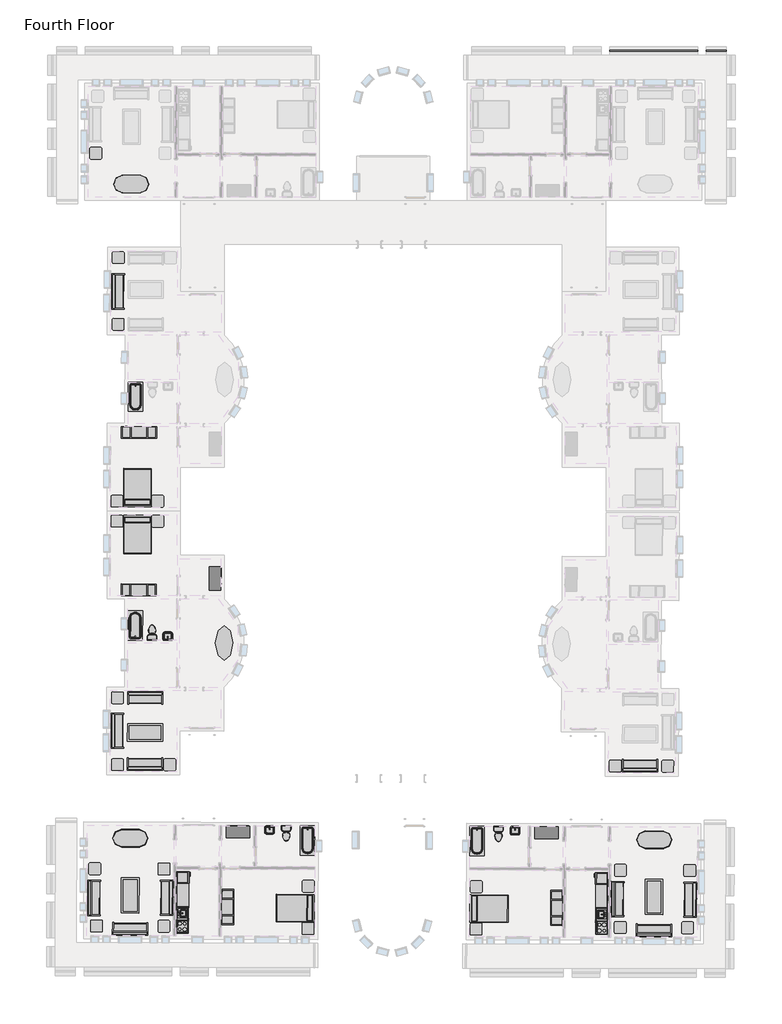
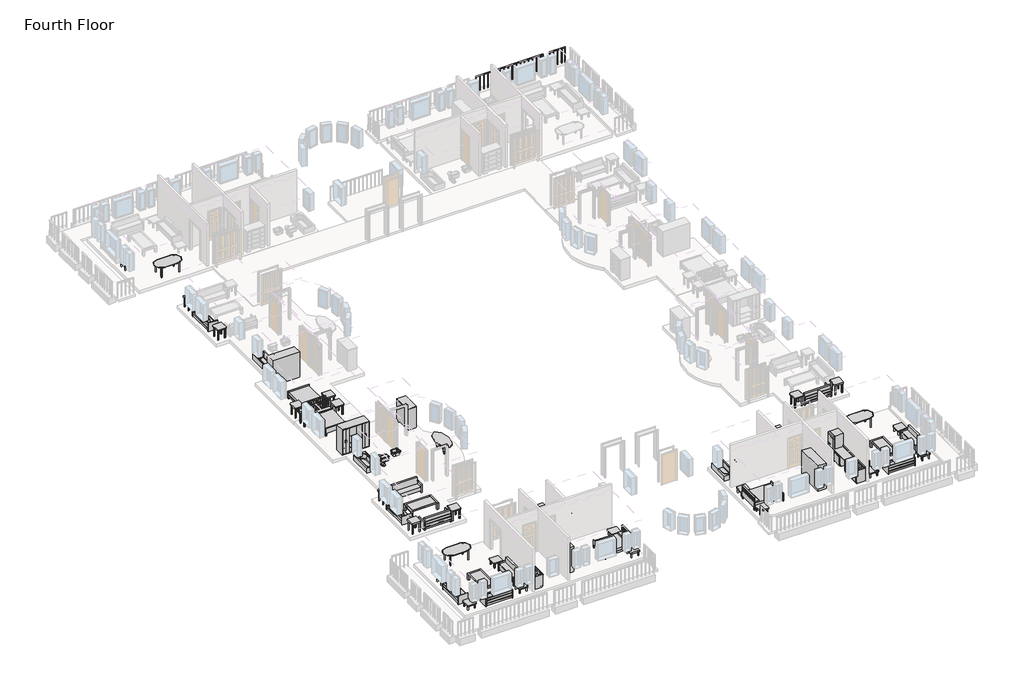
# One storey, part 7 of 8: 55 furniture elements, 12 flow terminals, 8 proxies, 2 railings.
"""IFC4 building model written with IfcOpenShell, lengths in millimetres."""

from ifc_helpers import new_model, si_unit, frame, origin, place, context, project, spatial, polyline, outline, extrude, transform, mapped, element, save
from components import m_cook_top_4_unit2_0615_x_500mm_249f3515, m_cook_top_4_unit2_0615_x_500mm_c91639ce, m_dishwasher_610_x_610_x_875mm_54ecfc4c, m_dishwasher_610_x_610_x_875mm_75336c20, m_kitchenette_medium_1372mm_e05c6bec, m_kitchenette_medium_1372mm_39f1532f, m_refrigerator_600_x_660mm_a466bf94, m_refrigerator_600_x_660mm_0a899b9c, m_sink_kitchen_island_450_x_450mm_f969cf2d, m_sink_kitchen_island_450_x_450mm_f6c2c534, m_sink_vanity_square_500_x_440mm_1e229b74, m_sink_vanity_square_500_x_440mm_f3cfe680, m_toilet_domestic_3d_m_toilet_domestic_3d_5cb52bd4, m_toilet_domestic_3d_m_toilet_domestic_3d_183bbd19, m_toilet_domestic_3d_m_toilet_domestic_3d_43425dfb, m_toilet_domestic_3d_m_toilet_domestic_3d_5530cc89, m_tub_rectangular_3d_m_tub_rectangular_3d_3a981ad5, m_tub_rectangular_3d_m_tub_rectangular_3d_c2020133, m_bed_shaker_1422_x_1981mm_double_096e7f55, m_bed_shaker_1422_x_1981mm_double_097b173b, m_counter_top_w_sink_hole_600mm_depth_1fb56bb9, m_counter_top_w_sink_hole_600mm_depth_7e9aa94d, m_dresser_1220_x_1525_x_0610mm_18e1f140, m_dresser_1220_x_1525_x_0610mm_4e5de046, m_entertainment_center_1830_x_1830_x_0610mm_f77a9b93, m_entertainment_center_1830_x_1830_x_0610mm_4f6058a0, m_sofa_1830mm_58d08fc1, m_sofa_1830mm_3da2e71b, m_sofa1_1830mm_f9e8a66b, m_sofa1_1830mm_493d6964, m_table_coffee_0915_x_1830_x_0457mm_134cd960, m_table_coffee_0915_x_1830_x_0457mm_595c1ebd, m_table_dining_oval_0915_x_1830mm_a7cfbe21, m_table_dining_oval_0915_x_1830mm_ad8305c5, m_table_ellipse_1800_x_900mm_f7269293, m_table_end_cb6ea12e, m_table_end_aa2764bc, m_table_end_0610_x_0160mm_e0e5b28f, m_table_end_0610_x_0160mm_ccef8dc9

model = new_model("IFC4")

# Units and contexts
model_context = context("Model", 3, world=origin())
ifc_project = project(units=[si_unit("LENGTHUNIT", "METRE", prefix="MILLI")], contexts=[model_context])

# Site, building, storey
site = spatial("IfcSite", under=ifc_project)
building = spatial("IfcBuilding", under=site)
storey = spatial("IfcBuildingStorey", under=building, Name="Fourth Floor", Elevation=9144.0)

# Proxies
placement = place(None, origin())
m_cook_top_4_unit2_0615_x_500mm_shape = m_cook_top_4_unit2_0615_x_500mm_249f3515(model_context)
element("IfcBuildingElementProxy", 1, Name="M_Cook Top-4 Unit2 : 0615 x 500mm", ObjectType="M_Cook Top-4 Unit2 : 0615 x 500mm", at=placement, inside=storey, context=model_context, shape_type="MappedRepresentation", body=[
    mapped(m_cook_top_4_unit2_0615_x_500mm_shape, transform((-29921.672142, -41252.4695151, 9144.0), x_axis=(0.0028948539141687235, 0.9999958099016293, 0.0), y_axis=(-0.9999958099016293, 0.0028948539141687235, 0.0), z_axis=(0.0, 0.0, 1.0))),
])
m_cook_top_4_unit2_0615_x_500mm_2_shape = m_cook_top_4_unit2_0615_x_500mm_c91639ce(model_context)
element("IfcBuildingElementProxy", 2, Name="M_Cook Top-4 Unit2 : 0615 x 500mm", ObjectType="M_Cook Top-4 Unit2 : 0615 x 500mm", at=placement, inside=storey, context=model_context, shape_type="MappedRepresentation", body=[
    mapped(m_cook_top_4_unit2_0615_x_500mm_2_shape, transform((-8117.5635037, -41315.5894888, 9144.0), x_axis=(0.0028948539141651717, 0.9999958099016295, 0.0), y_axis=(-0.9999958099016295, 0.0028948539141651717, 0.0), z_axis=(0.0, 0.0, 1.0))),
])
m_dishwasher_610_x_610_x_875mm_shape = m_dishwasher_610_x_610_x_875mm_54ecfc4c(model_context)
element("IfcBuildingElementProxy", 3, Name="M_Dishwasher : 610 x 610 x 875mm", ObjectType="M_Dishwasher : 610 x 610 x 875mm", at=placement, inside=storey, context=model_context, shape_type="MappedRepresentation", body=[
    mapped(m_dishwasher_610_x_610_x_875mm_shape, transform((-29650.5063255, -39692.7654337, 9144.0), x_axis=(0.0028948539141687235, 0.9999958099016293, 0.0), y_axis=(-0.9999958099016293, 0.0028948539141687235, 0.0), z_axis=(0.0, 0.0, 1.0))),
])
m_dishwasher_610_x_610_x_875mm_2_shape = m_dishwasher_610_x_610_x_875mm_75336c20(model_context)
element("IfcBuildingElementProxy", 4, Name="M_Dishwasher : 610 x 610 x 875mm", ObjectType="M_Dishwasher : 610 x 610 x 875mm", at=placement, inside=storey, context=model_context, shape_type="MappedRepresentation", body=[
    mapped(m_dishwasher_610_x_610_x_875mm_2_shape, transform((-8379.6945822, -39754.3415843, 9144.0), x_axis=(0.0028948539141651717, 0.9999958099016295, 0.0), y_axis=(-0.9999958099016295, 0.0028948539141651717, 0.0), z_axis=(0.0, 0.0, 1.0))),
])
m_kitchenette_medium_1372mm_shape = m_kitchenette_medium_1372mm_e05c6bec(model_context)
element("IfcBuildingElementProxy", 5, Name="M_Kitchenette - Medium : 1372mm", ObjectType="M_Kitchenette - Medium : 1372mm", at=placement, inside=storey, context=model_context, shape_type="MappedRepresentation", body=[
    mapped(m_kitchenette_medium_1372mm_shape, transform((-30225.732172, -40927.3256482, 9144.0), x_axis=(0.0028948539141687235, 0.9999958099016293, 0.0), y_axis=(-0.9999958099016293, 0.0028948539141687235, 0.0), z_axis=(0.0, 0.0, 1.0))),
])
m_kitchenette_medium_1372mm_2_shape = m_kitchenette_medium_1372mm_39f1532f(model_context)
element("IfcBuildingElementProxy", 6, Name="M_Kitchenette - Medium : 1372mm", ObjectType="M_Kitchenette - Medium : 1372mm", at=placement, inside=storey, context=model_context, shape_type="MappedRepresentation", body=[
    mapped(m_kitchenette_medium_1372mm_2_shape, transform((-7811.6260897, -40992.2114828, 9144.0), x_axis=(0.0028948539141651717, 0.9999958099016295, 0.0), y_axis=(-0.9999958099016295, 0.0028948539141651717, 0.0), z_axis=(0.0, 0.0, 1.0))),
])
m_refrigerator_600_x_660mm_shape = m_refrigerator_600_x_660mm_a466bf94(model_context)
element("IfcBuildingElementProxy", 7, Name="M_Refrigerator : 600 x 660mm", ObjectType="M_Refrigerator : 600 x 660mm", at=placement, inside=storey, context=model_context, shape_type="MappedRepresentation", body=[
    mapped(m_refrigerator_600_x_660mm_shape, transform((-29922.9251807, -38650.6538432, 9144.0), x_axis=(0.0028948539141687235, 0.9999958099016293, 0.0), y_axis=(-0.9999958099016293, 0.0028948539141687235, 0.0), z_axis=(0.0, 0.0, 1.0))),
])
m_refrigerator_600_x_660mm_2_shape = m_refrigerator_600_x_660mm_0a899b9c(model_context)
element("IfcBuildingElementProxy", 8, Name="M_Refrigerator : 600 x 660mm", ObjectType="M_Refrigerator : 600 x 660mm", at=placement, inside=storey, context=model_context, shape_type="MappedRepresentation", body=[
    mapped(m_refrigerator_600_x_660mm_2_shape, transform((-8101.2467965, -38713.824679, 9144.0), x_axis=(0.0028948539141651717, 0.9999958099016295, 0.0), y_axis=(-0.9999958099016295, 0.0028948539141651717, 0.0), z_axis=(0.0, 0.0, 1.0))),
])

# Flow terminals
m_sink_kitchen_island_450_x_450mm_shape = m_sink_kitchen_island_450_x_450mm_f969cf2d(model_context)
element("IfcFlowTerminal", 9, ObjectType="M_Sink Kitchen-Island : 450 x 450mm", at=placement, inside=storey, context=model_context, shape_type="MappedRepresentation", body=[
    mapped(m_sink_kitchen_island_450_x_450mm_shape, transform((-29917.3862989, -40582.1683539, 9144.0), x_axis=(0.0028948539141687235, 0.9999958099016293, 0.0), y_axis=(-0.9999958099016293, 0.0028948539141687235, 0.0), z_axis=(0.0, 0.0, 1.0))),
])
m_sink_kitchen_island_450_x_450mm_2_shape = m_sink_kitchen_island_450_x_450mm_f6c2c534(model_context)
element("IfcFlowTerminal", 10, ObjectType="M_Sink Kitchen-Island : 450 x 450mm", at=placement, inside=storey, context=model_context, shape_type="MappedRepresentation", body=[
    mapped(m_sink_kitchen_island_450_x_450mm_2_shape, transform((-8117.9684433, -40645.2747484, 9144.0), x_axis=(0.0028948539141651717, 0.9999958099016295, 0.0), y_axis=(-0.9999958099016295, 0.0028948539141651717, 0.0), z_axis=(0.0, 0.0, 1.0))),
])
m_sink_vanity_square_500_x_440mm_shape = m_sink_vanity_square_500_x_440mm_1e229b74(model_context)
element("IfcFlowTerminal", 11, ObjectType="M_Sink Vanity-Square : 500 x 440mm", at=placement, inside=storey, context=model_context, shape_type="MappedRepresentation", body=[
    mapped(m_sink_vanity_square_500_x_440mm_shape, transform((-25398.4470959, -36193.3769715, 9144.0), x_axis=(0.9999958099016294, -0.0028948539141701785, 0.0), y_axis=(0.0028948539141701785, 0.9999958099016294, 0.0), z_axis=(0.0, 0.0, 1.0))),
])
m_sink_vanity_square_500_x_440mm_2_shape = m_sink_vanity_square_500_x_440mm_f3cfe680(model_context)
element("IfcFlowTerminal", 12, ObjectType="M_Sink Vanity-Square : 500 x 440mm", at=placement, inside=storey, context=model_context, shape_type="MappedRepresentation", body=[
    mapped(m_sink_vanity_square_500_x_440mm_2_shape, transform((-12611.4221939, -36230.3936957, 9144.0), x_axis=(-0.9999958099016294, 0.002894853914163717, 0.0), y_axis=(-0.002894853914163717, -0.9999958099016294, 0.0), z_axis=(0.0, 0.0, 1.0))),
])
element("IfcFlowTerminal", 13, ObjectType="M_Sink Vanity-Square : 500 x 440mm", at=placement, inside=storey, context=model_context, shape_type="MappedRepresentation", body=[
    mapped(m_sink_vanity_square_500_x_440mm_2_shape, transform((-30696.2592425, -26201.6024913, 9144.0), x_axis=(0.9999989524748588, -0.001447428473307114, 0.0), y_axis=(0.0014474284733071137, 0.9999989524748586, 0.0), z_axis=(0.0, 0.0, 0.9999999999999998))),
])
m_toilet_domestic_3d_m_toilet_domestic_3d_shape = m_toilet_domestic_3d_m_toilet_domestic_3d_5cb52bd4(model_context)
m_toilet_domestic_3d_m_toilet_domestic_3d_2_shape = m_toilet_domestic_3d_m_toilet_domestic_3d_183bbd19(model_context)
element("IfcFlowTerminal", 14, ObjectType="M_Toilet-Domestic-3D : M_Toilet-Domestic-3D", at=placement, inside=storey, context=model_context, shape_type="MappedRepresentation", body=[
    mapped(m_toilet_domestic_3d_m_toilet_domestic_3d_shape, transform((-24522.1713775, -36508.8406097, 9144.0), x_axis=(0.9999958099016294, -0.00289485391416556, 0.0), y_axis=(0.00289485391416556, 0.9999958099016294, 0.0), z_axis=(0.0, 0.0, 1.0))),
    mapped(m_toilet_domestic_3d_m_toilet_domestic_3d_2_shape, transform((-24522.1713775, -36508.8406097, 9144.0), x_axis=(0.9999958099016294, -0.00289485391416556, 0.0), y_axis=(0.00289485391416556, 0.9999958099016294, 0.0), z_axis=(0.0, 0.0, 1.0))),
])
m_toilet_domestic_3d_m_toilet_domestic_3d_3_shape = m_toilet_domestic_3d_m_toilet_domestic_3d_43425dfb(model_context)
m_toilet_domestic_3d_m_toilet_domestic_3d_4_shape = m_toilet_domestic_3d_m_toilet_domestic_3d_5530cc89(model_context)
element("IfcFlowTerminal", 15, ObjectType="M_Toilet-Domestic-3D : M_Toilet-Domestic-3D", at=placement, inside=storey, context=model_context, shape_type="MappedRepresentation", body=[
    mapped(m_toilet_domestic_3d_m_toilet_domestic_3d_3_shape, transform((-13489.5096603, -36540.7786875, 9144.0), x_axis=(-0.9999958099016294, 0.002894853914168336, 0.0), y_axis=(-0.002894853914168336, -0.9999958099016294, 0.0), z_axis=(0.0, 0.0, 1.0))),
    mapped(m_toilet_domestic_3d_m_toilet_domestic_3d_4_shape, transform((-13489.5096603, -36540.7786875, 9144.0), x_axis=(-0.9999958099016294, 0.002894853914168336, 0.0), y_axis=(-0.002894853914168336, -0.9999958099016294, 0.0), z_axis=(0.0, 0.0, 1.0))),
])
element("IfcFlowTerminal", 16, ObjectType="M_Toilet-Domestic-3D1 : M_Toilet-Domestic-3D", at=placement, inside=storey, context=model_context, shape_type="MappedRepresentation", body=[
    mapped(m_toilet_domestic_3d_m_toilet_domestic_3d_3_shape, transform((-31493.0231805, -25877.7982671, 9144.0), x_axis=(0.9999989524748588, -0.001447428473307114, 0.0), y_axis=(0.0014474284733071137, 0.9999989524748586, 0.0), z_axis=(0.0, 0.0, 0.9999999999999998))),
    mapped(m_toilet_domestic_3d_m_toilet_domestic_3d_4_shape, transform((-31493.0231805, -25877.7982671, 9144.0), x_axis=(0.9999989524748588, -0.001447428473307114, 0.0), y_axis=(0.0014474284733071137, 0.9999989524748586, 0.0), z_axis=(0.0, 0.0, 0.9999999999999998))),
])
m_tub_rectangular_3d_m_tub_rectangular_3d_shape = m_tub_rectangular_3d_m_tub_rectangular_3d_3a981ad5(model_context)
element("IfcFlowTerminal", 17, ObjectType="M_Tub-Rectangular-3D : M_Tub-Rectangular-3D", at=placement, inside=storey, context=model_context, shape_type="MappedRepresentation", body=[
    mapped(m_tub_rectangular_3d_m_tub_rectangular_3d_shape, transform((-22854.3573612, -37129.57823, 9144.0), x_axis=(-0.0028948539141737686, -0.9999958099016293, 0.0), y_axis=(0.9999958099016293, -0.0028948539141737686, 0.0), z_axis=(0.0, 0.0, 1.0))),
])
element("IfcFlowTerminal", 18, ObjectType="M_Tub-Rectangular-3D : M_Tub-Rectangular-3D", at=placement, inside=storey, context=model_context, shape_type="MappedRepresentation", body=[
    mapped(m_tub_rectangular_3d_m_tub_rectangular_3d_shape, transform((-32926.5841692, -25259.8157014, 9144.0), x_axis=(0.0014474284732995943, 0.9999989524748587, 0.0), y_axis=(-0.9999989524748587, 0.0014474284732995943, 0.0), z_axis=(0.0, 0.0, 1.0))),
])
m_tub_rectangular_3d_m_tub_rectangular_3d_2_shape = m_tub_rectangular_3d_m_tub_rectangular_3d_c2020133(model_context)
element("IfcFlowTerminal", 19, ObjectType="M_Tub-Rectangular-3D : M_Tub-Rectangular-3D", at=placement, inside=storey, context=model_context, shape_type="MappedRepresentation", body=[
    mapped(m_tub_rectangular_3d_m_tub_rectangular_3d_2_shape, transform((-32910.3874532, -14069.8333606, 9144.0), x_axis=(-0.0014474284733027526, -0.9999989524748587, 0.0), y_axis=(0.9999989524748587, -0.0014474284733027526, 0.0), z_axis=(0.0, 0.0, 1.0))),
])
element("IfcFlowTerminal", 20, ObjectType="M_Tub-Rectangular-3D : M_Tub-Rectangular-3D", at=placement, inside=storey, context=model_context, shape_type="MappedRepresentation", body=[
    mapped(m_tub_rectangular_3d_m_tub_rectangular_3d_2_shape, transform((-15160.8895978, -37151.8497886, 9144.0), x_axis=(-0.0028948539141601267, -0.9999958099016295, 0.0), y_axis=(0.9999958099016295, -0.0028948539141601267, 0.0), z_axis=(0.0, 0.0, 1.0))),
])

# Furniture
m_bed_shaker_1422_x_1981mm_double_shape = m_bed_shaker_1422_x_1981mm_double_096e7f55(model_context)
element("IfcFurniture", 21, ObjectType="M_Bed-Shaker : 1422 x 1981mm - Double", at=placement, inside=storey, context=model_context, shape_type="MappedRepresentation", body=[
    mapped(m_bed_shaker_1422_x_1981mm_double_shape, transform((-32265.3963493, -19430.7695861, 9144.0), x_axis=(-0.9999989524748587, 0.0014474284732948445, 0.0), y_axis=(-0.0014474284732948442, -0.9999989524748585, 0.0), z_axis=(0.0, 0.0, 0.9999999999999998))),
])
element("IfcFurniture", 22, ObjectType="M_Bed-Shaker : 1422 x 1981mm - Double", at=placement, inside=storey, context=model_context, shape_type="MappedRepresentation", body=[
    mapped(m_bed_shaker_1422_x_1981mm_double_shape, transform((-23068.6004859, -40322.2184362, 9144.0), x_axis=(-0.002894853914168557, -0.9999958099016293, 0.0), y_axis=(0.9999958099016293, -0.002894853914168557, 0.0), z_axis=(0.0, 0.0, 1.0))),
])
m_bed_shaker_1422_x_1981mm_double_2_shape = m_bed_shaker_1422_x_1981mm_double_097b173b(model_context)
element("IfcFurniture", 23, ObjectType="M_Bed-Shaker : 1422 x 1981mm - Double", at=placement, inside=storey, context=model_context, shape_type="MappedRepresentation", body=[
    mapped(m_bed_shaker_1422_x_1981mm_double_2_shape, transform((-14965.1344404, -40345.6768849, 9144.0), x_axis=(-0.0028948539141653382, -0.9999958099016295, 0.0), y_axis=(0.9999958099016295, -0.0028948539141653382, 0.0), z_axis=(0.0, 0.0, 1.0))),
])
element("IfcFurniture", 24, ObjectType="M_Bed-Shaker : 1422 x 1981mm - Double", at=placement, inside=storey, context=model_context, shape_type="MappedRepresentation", body=[
    mapped(m_bed_shaker_1422_x_1981mm_double_2_shape, transform((-32266.0766407, -19900.7690938, 9144.0), x_axis=(-0.9999989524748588, 0.0014474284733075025, 0.0), y_axis=(-0.0014474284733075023, -0.9999989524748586, 0.0), z_axis=(0.0, 0.0, 0.9999999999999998))),
])
m_counter_top_w_sink_hole_600mm_depth_shape = m_counter_top_w_sink_hole_600mm_depth_1fb56bb9(model_context)
element("IfcFurniture", 25, ObjectType="M_Counter Top w Sink Hole : 600mm Depth", at=placement, inside=storey, context=model_context, shape_type="MappedRepresentation", body=[
    mapped(m_counter_top_w_sink_hole_600mm_depth_shape, transform((-30224.1886359, -40394.1278824, 9144.0), x_axis=(0.0028948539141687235, 0.9999958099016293, 0.0), y_axis=(-0.9999958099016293, 0.0028948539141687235, 0.0), z_axis=(0.0, 0.0, 1.0))),
])
m_counter_top_w_sink_hole_600mm_depth_2_shape = m_counter_top_w_sink_hole_600mm_depth_7e9aa94d(model_context)
element("IfcFurniture", 26, ObjectType="M_Counter Top w Sink Hole : 600mm Depth", at=placement, inside=storey, context=model_context, shape_type="MappedRepresentation", body=[
    mapped(m_counter_top_w_sink_hole_600mm_depth_2_shape, transform((-7810.0825536, -40459.013717, 9144.0), x_axis=(0.0028948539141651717, 0.9999958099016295, 0.0), y_axis=(-0.9999958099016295, 0.0028948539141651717, 0.0), z_axis=(0.0, 0.0, 1.0))),
])
m_dresser_1220_x_1525_x_0610mm_shape = m_dresser_1220_x_1525_x_0610mm_18e1f140(model_context)
element("IfcFurniture", 27, ObjectType="M_Dresser : 1220 x 1525 x 0610mm", at=placement, inside=storey, context=model_context, shape_type="MappedRepresentation", body=[
    mapped(m_dresser_1220_x_1525_x_0610mm_shape, transform((-27295.820683, -36698.2790207, 9144.0), x_axis=(-0.9999958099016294, 0.0028948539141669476, 0.0), y_axis=(-0.0028948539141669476, -0.9999958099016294, 0.0), z_axis=(0.0, 0.0, 1.0))),
])
m_dresser_1220_x_1525_x_0610mm_2_shape = m_dresser_1220_x_1525_x_0610mm_4e5de046(model_context)
element("IfcFurniture", 28, ObjectType="M_Dresser : 1220 x 1525 x 0610mm", at=placement, inside=storey, context=model_context, shape_type="MappedRepresentation", body=[
    mapped(m_dresser_1220_x_1525_x_0610mm_2_shape, transform((-10717.0036305, -36746.2724752, 9144.0), x_axis=(0.9999958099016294, -0.002894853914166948, 0.0), y_axis=(0.002894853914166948, 0.9999958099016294, 0.0), z_axis=(0.0, 0.0, 1.0))),
])
element("IfcFurniture", 29, ObjectType="M_Dresser : 1220 x 1525 x 0610mm", at=placement, inside=storey, context=model_context, shape_type="MappedRepresentation", body=[
    mapped(m_dresser_1220_x_1525_x_0610mm_2_shape, transform((-28585.490131, -23427.2934334, 9144.0), x_axis=(-0.0014474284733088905, -0.9999989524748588, 0.0), y_axis=(0.9999989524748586, -0.0014474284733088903, 0.0), z_axis=(0.0, 0.0, 0.9999999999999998))),
])
m_entertainment_center_1830_x_1830_x_0610mm_shape = m_entertainment_center_1830_x_1830_x_0610mm_f77a9b93(model_context)
element("IfcFurniture", 30, ObjectType="M_Entertainment center : 1830 x 1830 x 0610mm", at=placement, inside=storey, context=model_context, shape_type="MappedRepresentation", body=[
    mapped(m_entertainment_center_1830_x_1830_x_0610mm_shape, transform((-32173.151944, -15980.2994888, 9144.0), x_axis=(-0.9999989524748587, 0.0014474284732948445, 0.0), y_axis=(-0.0014474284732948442, -0.9999989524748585, 0.0), z_axis=(0.0, 0.0, 0.9999999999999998))),
])
element("IfcFurniture", 31, ObjectType="M_Entertainment center : 1830 x 1830 x 0610mm", at=placement, inside=storey, context=model_context, shape_type="MappedRepresentation", body=[
    mapped(m_entertainment_center_1830_x_1830_x_0610mm_shape, transform((-27155.4724705, -40237.537184, 9144.0), x_axis=(-0.0028948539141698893, -0.9999958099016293, 0.0), y_axis=(0.9999958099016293, -0.0028948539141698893, 0.0), z_axis=(0.0, 0.0, 1.0))),
])
m_entertainment_center_1830_x_1830_x_0610mm_2_shape = m_entertainment_center_1830_x_1830_x_0610mm_4f6058a0(model_context)
element("IfcFurniture", 32, ObjectType="M_Entertainment center : 1830 x 1830 x 0610mm", at=placement, inside=storey, context=model_context, shape_type="MappedRepresentation", body=[
    mapped(m_entertainment_center_1830_x_1830_x_0610mm_2_shape, transform((-10877.8406756, -40284.6587476, 9144.0), x_axis=(-0.002894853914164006, -0.9999958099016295, 0.0), y_axis=(0.9999958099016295, -0.002894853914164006, 0.0), z_axis=(0.0, 0.0, 1.0))),
])
element("IfcFurniture", 33, ObjectType="M_Entertainment center : 1830 x 1830 x 0610mm", at=placement, inside=storey, context=model_context, shape_type="MappedRepresentation", body=[
    mapped(m_entertainment_center_1830_x_1830_x_0610mm_2_shape, transform((-32183.8212288, -23351.4917673, 9144.0), x_axis=(-0.9999989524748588, 0.0014474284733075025, 0.0), y_axis=(-0.0014474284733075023, -0.9999989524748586, 0.0), z_axis=(0.0, 0.0, 0.9999999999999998))),
])
m_sofa_1830mm_shape = m_sofa_1830mm_58d08fc1(model_context)
element("IfcFurniture", 34, ObjectType="M_Sofa : 1830mm", at=placement, inside=storey, context=model_context, shape_type="MappedRepresentation", body=[
    mapped(m_sofa_1830mm_shape, transform((-32562.8997947, -41230.7335351, 9144.0), x_axis=(-0.9999958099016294, 0.0028948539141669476, 0.0), y_axis=(-0.0028948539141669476, -0.9999958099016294, 0.0), z_axis=(0.0, 0.0, 1.0))),
])
element("IfcFurniture", 35, ObjectType="M_Sofa : 1830mm", at=placement, inside=storey, context=model_context, shape_type="MappedRepresentation", body=[
    mapped(m_sofa_1830mm_shape, transform((-34355.4280294, -39842.8427064, 9144.0), x_axis=(0.0028948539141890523, 0.9999958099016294, 0.0), y_axis=(-0.9999958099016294, 0.0028948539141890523, 0.0), z_axis=(0.0, 0.0, 1.0))),
])
element("IfcFurniture", 36, ObjectType="M_Sofa : 1830mm", at=placement, inside=storey, context=model_context, shape_type="MappedRepresentation", body=[
    mapped(m_sofa_1830mm_shape, transform((-30883.7111212, -39691.3716975, 9144.0), x_axis=(-0.002894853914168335, -0.9999958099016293, 0.0), y_axis=(0.9999958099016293, -0.002894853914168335, 0.0), z_axis=(0.0, 0.0, 1.0))),
])
m_sofa_1830mm_2_shape = m_sofa_1830mm_3da2e71b(model_context)
element("IfcFurniture", 37, ObjectType="M_Sofa : 1830mm", at=placement, inside=storey, context=model_context, shape_type="MappedRepresentation", body=[
    mapped(m_sofa_1830mm_2_shape, transform((-5476.2542745, -41309.1457454, 9144.0), x_axis=(0.9999958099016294, -0.002894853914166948, 0.0), y_axis=(0.002894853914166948, 0.9999958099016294, 0.0), z_axis=(0.0, 0.0, 1.0))),
])
element("IfcFurniture", 38, ObjectType="M_Sofa : 1830mm", at=placement, inside=storey, context=model_context, shape_type="MappedRepresentation", body=[
    mapped(m_sofa_1830mm_2_shape, transform((-3675.7206344, -39931.6563496, 9144.0), x_axis=(0.002894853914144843, 0.9999958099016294, 0.0), y_axis=(-0.9999958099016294, 0.002894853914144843, 0.0), z_axis=(0.0, 0.0, 1.0))),
])
element("IfcFurniture", 39, ObjectType="M_Sofa : 1830mm", at=placement, inside=storey, context=model_context, shape_type="MappedRepresentation", body=[
    mapped(m_sofa_1830mm_2_shape, transform((-7146.5023862, -39760.087737, 9144.0), x_axis=(-0.0028948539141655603, -0.9999958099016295, 0.0), y_axis=(0.9999958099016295, -0.0028948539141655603, 0.0), z_axis=(0.0, 0.0, 1.0))),
])
m_sofa1_1830mm_shape = m_sofa1_1830mm_f9e8a66b(model_context)
element("IfcFurniture", 40, ObjectType="M_Sofa1 : 1830mm", at=placement, inside=storey, context=model_context, shape_type="MappedRepresentation", body=[
    mapped(m_sofa1_1830mm_shape, transform((-33110.3167447, -8323.9054813, 9144.0), x_axis=(0.0014474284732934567, 0.9999989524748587, 0.0), y_axis=(-0.9999989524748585, 0.0014474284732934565, 0.0), z_axis=(0.0, 0.0, 0.9999999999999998))),
])
element("IfcFurniture", 41, ObjectType="M_Sofa1 : 1830mm", at=placement, inside=storey, context=model_context, shape_type="MappedRepresentation", body=[
    mapped(m_sofa1_1830mm_shape, transform((-6062.461585, -32735.9936216, 9144.0), x_axis=(-0.9999905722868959, 0.00434227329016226, 0.0), y_axis=(-0.0043422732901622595, -0.9999905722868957, 0.0), z_axis=(0.0, 0.0, 0.9999999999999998))),
])
m_sofa1_1830mm_2_shape = m_sofa1_1830mm_493d6964(model_context)
element("IfcFurniture", 42, ObjectType="M_Sofa1 : 1830mm", at=placement, inside=storey, context=model_context, shape_type="MappedRepresentation", body=[
    mapped(m_sofa1_1830mm_2_shape, transform((-33143.1462448, -31005.1407385, 9144.0), x_axis=(-0.0014474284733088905, -0.9999989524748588, 0.0), y_axis=(0.9999989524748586, -0.0014474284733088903, 0.0), z_axis=(0.0, 0.0, 0.9999999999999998))),
])
element("IfcFurniture", 43, ObjectType="M_Sofa1 : 1830mm", at=placement, inside=storey, context=model_context, shape_type="MappedRepresentation", body=[
    mapped(m_sofa1_1830mm_2_shape, transform((-31781.7851362, -29524.3842504, 9144.0), x_axis=(-0.9999989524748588, 0.0014474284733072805, 0.0), y_axis=(-0.0014474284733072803, -0.9999989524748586, 0.0), z_axis=(0.0, 0.0, 0.9999999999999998))),
])
element("IfcFurniture", 44, ObjectType="M_Sofa1 : 1830mm", at=placement, inside=storey, context=model_context, shape_type="MappedRepresentation", body=[
    mapped(m_sofa1_1830mm_2_shape, transform((-31927.0664712, -32661.1190552, 9144.0), x_axis=(0.9999989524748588, -0.001447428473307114, 0.0), y_axis=(0.0014474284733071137, 0.9999989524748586, 0.0), z_axis=(0.0, 0.0, 0.9999999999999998))),
])
m_table_coffee_0915_x_1830_x_0457mm_shape = m_table_coffee_0915_x_1830_x_0457mm_134cd960(model_context)
element("IfcFurniture", 45, ObjectType="M_Table-Coffee : 0915 x 1830 x 0457mm", at=placement, inside=storey, context=model_context, shape_type="MappedRepresentation", body=[
    mapped(m_table_coffee_0915_x_1830_x_0457mm_shape, transform((-32723.8138427, -39618.1492872, 9144.0), x_axis=(-0.0028948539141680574, -0.9999958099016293, 0.0), y_axis=(0.9999958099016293, -0.0028948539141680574, 0.0), z_axis=(0.0, 0.0, 1.0))),
])
m_table_coffee_0915_x_1830_x_0457mm_2_shape = m_table_coffee_0915_x_1830_x_0457mm_595c1ebd(model_context)
element("IfcFurniture", 46, ObjectType="M_Table-Coffee : 0915 x 1830 x 0457mm", at=placement, inside=storey, context=model_context, shape_type="MappedRepresentation", body=[
    mapped(m_table_coffee_0915_x_1830_x_0457mm_2_shape, transform((-5306.0065709, -39697.5201665, 9144.0), x_axis=(-0.002894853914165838, -0.9999958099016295, 0.0), y_axis=(0.9999958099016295, -0.002894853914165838, 0.0), z_axis=(0.0, 0.0, 1.0))),
])
element("IfcFurniture", 47, ObjectType="M_Table-Coffee : 0915 x 1830 x 0457mm", at=placement, inside=storey, context=model_context, shape_type="MappedRepresentation", body=[
    mapped(m_table_coffee_0915_x_1830_x_0457mm_2_shape, transform((-31836.4214416, -31273.3639798, 9144.0), x_axis=(-0.9999989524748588, 0.0014474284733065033, 0.0), y_axis=(-0.001447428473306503, -0.9999989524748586, 0.0), z_axis=(0.0, 0.0, 0.9999999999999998))),
])
m_table_dining_oval_0915_x_1830mm_shape = m_table_dining_oval_0915_x_1830mm_a7cfbe21(model_context)
element("IfcFurniture", 48, ObjectType="M_Table-Dining Oval : 0915 x 1830mm", at=placement, inside=storey, context=model_context, shape_type="MappedRepresentation", body=[
    mapped(m_table_dining_oval_0915_x_1830mm_shape, transform((-33022.9144028, -37024.136693, 9144.0), x_axis=(-0.9999958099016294, 0.0028948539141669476, 0.0), y_axis=(-0.0028948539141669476, -0.9999958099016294, 0.0), z_axis=(0.0, 0.0, 1.0))),
])
m_table_dining_oval_0915_x_1830mm_2_shape = m_table_dining_oval_0915_x_1830mm_ad8305c5(model_context)
element("IfcFurniture", 49, ObjectType="M_Table-Dining Oval : 0915 x 1830mm", at=placement, inside=storey, context=model_context, shape_type="MappedRepresentation", body=[
    mapped(m_table_dining_oval_0915_x_1830mm_2_shape, transform((-32972.6612925, -2305.2828007, 9144.0), x_axis=(-1.0, 0.0, 0.0), y_axis=(0.0, -1.0, 0.0), z_axis=(0.0, 0.0, 1.0))),
])
element("IfcFurniture", 50, ObjectType="M_Table-Dining Oval : 0915 x 1830mm", at=placement, inside=storey, context=model_context, shape_type="MappedRepresentation", body=[
    mapped(m_table_dining_oval_0915_x_1830mm_2_shape, transform((-4991.8925118, -37105.2827464, 9144.0), x_axis=(0.9999958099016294, -0.002894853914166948, 0.0), y_axis=(0.002894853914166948, 0.9999958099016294, 0.0), z_axis=(0.0, 0.0, 1.0))),
])
m_table_ellipse_1800_x_900mm_shape = m_table_ellipse_1800_x_900mm_f7269293(model_context)
element("IfcFurniture", 51, ObjectType="M_Table-Ellipse : 1800 x 900mm", at=placement, inside=storey, context=model_context, shape_type="MappedRepresentation", body=[
    mapped(m_table_ellipse_1800_x_900mm_shape, transform((-27746.793242, -26513.4173601, 9144.0), x_axis=(-0.0014474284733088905, -0.9999989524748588, 0.0), y_axis=(0.9999989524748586, -0.0014474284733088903, 0.0), z_axis=(0.0, 0.0, 0.9999999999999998))),
])
m_table_end_shape = m_table_end_cb6ea12e(model_context)
element("IfcFurniture", 52, ObjectType="M_Table-End : 0610 x 0160mm altered height", at=placement, inside=storey, context=model_context, shape_type="MappedRepresentation", body=[
    mapped(m_table_end_shape, transform((-30569.1071738, -41085.2587623, 9144.0), x_axis=(-0.9999958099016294, 0.0028948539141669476, 0.0), y_axis=(-0.0028948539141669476, -0.9999958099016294, 0.0), z_axis=(0.0, 0.0, 1.0))),
])
element("IfcFurniture", 53, ObjectType="M_Table-End : 0610 x 0160mm altered height", at=placement, inside=storey, context=model_context, shape_type="MappedRepresentation", body=[
    mapped(m_table_end_shape, transform((-34069.0925084, -41075.1267736, 9144.0), x_axis=(-0.9999958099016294, 0.0028948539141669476, 0.0), y_axis=(-0.0028948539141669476, -0.9999958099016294, 0.0), z_axis=(0.0, 0.0, 1.0))),
])
element("IfcFurniture", 54, ObjectType="M_Table-End : 0610 x 0160mm altered height", at=placement, inside=storey, context=model_context, shape_type="MappedRepresentation", body=[
    mapped(m_table_end_shape, transform((-34160.490031, -38103.349739, 9144.0), x_axis=(-0.9999958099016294, 0.0028948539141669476, 0.0), y_axis=(-0.0028948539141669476, -0.9999958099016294, 0.0), z_axis=(0.0, 0.0, 1.0))),
])
element("IfcFurniture", 55, ObjectType="M_Table-End : 0610 x 0160mm altered height", at=placement, inside=storey, context=model_context, shape_type="MappedRepresentation", body=[
    mapped(m_table_end_shape, transform((-30560.5051154, -38113.7712131, 9144.0), x_axis=(-0.9999958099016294, 0.0028948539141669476, 0.0), y_axis=(-0.0028948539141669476, -0.9999958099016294, 0.0), z_axis=(0.0, 0.0, 1.0))),
])
element("IfcFurniture", 56, ObjectType="M_Table-End : 0610 x 0160mm altered height", at=placement, inside=storey, context=model_context, shape_type="MappedRepresentation", body=[
    mapped(m_table_end_shape, transform((-23071.0593728, -39006.955807, 9144.0), x_axis=(-0.9999958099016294, 0.0028948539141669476, 0.0), y_axis=(-0.0028948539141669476, -0.9999958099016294, 0.0), z_axis=(0.0, 0.0, 1.0))),
])
element("IfcFurniture", 57, ObjectType="M_Table-End : 0610 x 0160mm altered height", at=placement, inside=storey, context=model_context, shape_type="MappedRepresentation", body=[
    mapped(m_table_end_shape, transform((-23077.4280514, -41206.9465888, 9144.0), x_axis=(-0.9999958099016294, 0.0028948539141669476, 0.0), y_axis=(-0.0028948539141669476, -0.9999958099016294, 0.0), z_axis=(0.0, 0.0, 1.0))),
])
m_table_end_2_shape = m_table_end_aa2764bc(model_context)
element("IfcFurniture", 58, ObjectType="M_Table-End : 0610 x 0160mm altered height", at=placement, inside=storey, context=model_context, shape_type="MappedRepresentation", body=[
    mapped(m_table_end_2_shape, transform((-34107.10799, -1222.7811614, 9144.0), x_axis=(-1.0, 0.0, 0.0), y_axis=(0.0, -1.0, 0.0), z_axis=(0.0, 0.0, 1.0))),
])
element("IfcFurniture", 59, ObjectType="M_Table-End : 0610 x 0160mm altered height", at=placement, inside=storey, context=model_context, shape_type="MappedRepresentation", body=[
    mapped(m_table_end_2_shape, transform((-7469.1712258, -41152.1299825, 9144.0), x_axis=(0.9999958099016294, -0.002894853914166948, 0.0), y_axis=(0.002894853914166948, 0.9999958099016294, 0.0), z_axis=(0.0, 0.0, 1.0))),
])
element("IfcFurniture", 60, ObjectType="M_Table-End : 0610 x 0160mm altered height", at=placement, inside=storey, context=model_context, shape_type="MappedRepresentation", body=[
    mapped(m_table_end_2_shape, transform((-3969.1858911, -41162.2619711, 9144.0), x_axis=(0.9999958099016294, -0.002894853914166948, 0.0), y_axis=(0.002894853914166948, 0.9999958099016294, 0.0), z_axis=(0.0, 0.0, 1.0))),
])
element("IfcFurniture", 61, ObjectType="M_Table-End : 0610 x 0160mm altered height", at=placement, inside=storey, context=model_context, shape_type="MappedRepresentation", body=[
    mapped(m_table_end_2_shape, transform((-3860.5842517, -38191.0639074, 9144.0), x_axis=(0.9999958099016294, -0.002894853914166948, 0.0), y_axis=(0.002894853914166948, 0.9999958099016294, 0.0), z_axis=(0.0, 0.0, 1.0))),
])
element("IfcFurniture", 62, ObjectType="M_Table-End : 0610 x 0160mm altered height", at=placement, inside=storey, context=model_context, shape_type="MappedRepresentation", body=[
    mapped(m_table_end_2_shape, transform((-7460.5691674, -38180.6424333, 9144.0), x_axis=(0.9999958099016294, -0.002894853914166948, 0.0), y_axis=(0.002894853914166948, 0.9999958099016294, 0.0), z_axis=(0.0, 0.0, 1.0))),
])
element("IfcFurniture", 63, ObjectType="M_Table-End : 0610 x 0160mm altered height", at=placement, inside=storey, context=model_context, shape_type="MappedRepresentation", body=[
    mapped(m_table_end_2_shape, transform((-14955.0606403, -39030.4505361, 9144.0), x_axis=(0.9999958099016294, -0.002894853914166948, 0.0), y_axis=(0.002894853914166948, 0.9999958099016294, 0.0), z_axis=(0.0, 0.0, 1.0))),
])
element("IfcFurniture", 64, ObjectType="M_Table-End : 0610 x 0160mm altered height", at=placement, inside=storey, context=model_context, shape_type="MappedRepresentation", body=[
    mapped(m_table_end_2_shape, transform((-14961.4293189, -41230.4413179, 9144.0), x_axis=(0.9999958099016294, -0.002894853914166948, 0.0), y_axis=(0.002894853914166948, 0.9999958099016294, 0.0), z_axis=(0.0, 0.0, 1.0))),
])
m_table_end_0610_x_0160mm_shape = m_table_end_0610_x_0160mm_e0e5b28f(model_context)
element("IfcFurniture", 65, ObjectType="M_Table-End : 0610 x 0160mm", at=placement, inside=storey, context=model_context, shape_type="MappedRepresentation", body=[
    mapped(m_table_end_0610_x_0160mm_shape, transform((-33160.1808503, -19453.9581041, 9144.0), x_axis=(0.0014474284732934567, 0.9999989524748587, 0.0), y_axis=(-0.9999989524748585, 0.0014474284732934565, 0.0), z_axis=(0.0, 0.0, 0.9999999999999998))),
])
element("IfcFurniture", 66, ObjectType="M_Table-End : 0610 x 0160mm", at=placement, inside=storey, context=model_context, shape_type="MappedRepresentation", body=[
    mapped(m_table_end_0610_x_0160mm_shape, transform((-31040.1830711, -19457.0266525, 9144.0), x_axis=(0.0014474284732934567, 0.9999989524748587, 0.0), y_axis=(-0.9999989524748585, 0.0014474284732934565, 0.0), z_axis=(0.0, 0.0, 0.9999999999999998))),
])
element("IfcFurniture", 67, ObjectType="M_Table-End : 0610 x 0160mm", at=placement, inside=storey, context=model_context, shape_type="MappedRepresentation", body=[
    mapped(m_table_end_0610_x_0160mm_shape, transform((-33106.8837287, -10267.2756246, 9144.0), x_axis=(0.0014474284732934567, 0.9999989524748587, 0.0), y_axis=(-0.9999989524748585, 0.0014474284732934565, 0.0), z_axis=(0.0, 0.0, 0.9999999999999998))),
])
element("IfcFurniture", 68, ObjectType="M_Table-End : 0610 x 0160mm", at=placement, inside=storey, context=model_context, shape_type="MappedRepresentation", body=[
    mapped(m_table_end_0610_x_0160mm_shape, transform((-33101.8611519, -6797.2792595, 9144.0), x_axis=(0.0014474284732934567, 0.9999989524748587, 0.0), y_axis=(-0.9999989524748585, 0.0014474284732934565, 0.0), z_axis=(0.0, 0.0, 0.9999999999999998))),
])
element("IfcFurniture", 69, ObjectType="M_Table-End : 0610 x 0160mm", at=placement, inside=storey, context=model_context, shape_type="MappedRepresentation", body=[
    mapped(m_table_end_0610_x_0160mm_shape, transform((-4849.6895201, -32613.6791242, 9144.0), x_axis=(-0.004342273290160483, -0.9999905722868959, 0.0), y_axis=(0.9999905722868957, -0.004342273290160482, 0.0), z_axis=(0.0, 0.0, 0.9999999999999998))),
])
element("IfcFurniture", 70, ObjectType="M_Table-End : 0610 x 0160mm", at=placement, inside=storey, context=model_context, shape_type="MappedRepresentation", body=[
    mapped(m_table_end_0610_x_0160mm_shape, transform((-7569.6638767, -32601.8681409, 9144.0), x_axis=(-0.004342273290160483, -0.9999905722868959, 0.0), y_axis=(0.9999905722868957, -0.004342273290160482, 0.0), z_axis=(0.0, 0.0, 0.9999999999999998))),
])
m_table_end_0610_x_0160mm_2_shape = m_table_end_0610_x_0160mm_ccef8dc9(model_context)
element("IfcFurniture", 71, ObjectType="M_Table-End : 0610 x 0160mm", at=placement, inside=storey, context=model_context, shape_type="MappedRepresentation", body=[
    mapped(m_table_end_0610_x_0160mm_2_shape, transform((-33160.7902651, -19874.9904025, 9144.0), x_axis=(-0.0014474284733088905, -0.9999989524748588, 0.0), y_axis=(0.9999989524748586, -0.0014474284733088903, 0.0), z_axis=(0.0, 0.0, 0.9999999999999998))),
])
element("IfcFurniture", 72, ObjectType="M_Table-End : 0610 x 0160mm", at=placement, inside=storey, context=model_context, shape_type="MappedRepresentation", body=[
    mapped(m_table_end_0610_x_0160mm_2_shape, transform((-31040.7924859, -19878.0589508, 9144.0), x_axis=(-0.0014474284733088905, -0.9999989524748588, 0.0), y_axis=(0.9999989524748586, -0.0014474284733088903, 0.0), z_axis=(0.0, 0.0, 0.9999999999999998))),
])
element("IfcFurniture", 73, ObjectType="M_Table-End : 0610 x 0160mm", at=placement, inside=storey, context=model_context, shape_type="MappedRepresentation", body=[
    mapped(m_table_end_0610_x_0160mm_2_shape, transform((-33134.0874705, -29061.7886763, 9144.0), x_axis=(-0.0014474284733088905, -0.9999989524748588, 0.0), y_axis=(0.9999989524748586, -0.0014474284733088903, 0.0), z_axis=(0.0, 0.0, 0.9999999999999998))),
])
element("IfcFurniture", 74, ObjectType="M_Table-End : 0610 x 0160mm", at=placement, inside=storey, context=model_context, shape_type="MappedRepresentation", body=[
    mapped(m_table_end_0610_x_0160mm_2_shape, transform((-33139.1100473, -32531.7850414, 9144.0), x_axis=(-0.0014474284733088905, -0.9999989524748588, 0.0), y_axis=(0.9999989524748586, -0.0014474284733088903, 0.0), z_axis=(0.0, 0.0, 0.9999999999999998))),
])
element("IfcFurniture", 75, ObjectType="M_Table-End : 0610 x 0160mm", at=placement, inside=storey, context=model_context, shape_type="MappedRepresentation", body=[
    mapped(m_table_end_0610_x_0160mm_2_shape, transform((-30419.1128966, -32535.7220468, 9144.0), x_axis=(-0.0014474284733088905, -0.9999989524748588, 0.0), y_axis=(0.9999989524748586, -0.0014474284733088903, 0.0), z_axis=(0.0, 0.0, 0.9999999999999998))),
])

# Railings
element("IfcRailing", 76, ObjectType="1100mm", at=placement, inside=storey, context=model_context, shape_type="SweptSolid", body=[
    extrude(outline(polyline([(-7693.3416203, 4231.1188386), (-7693.3416203, 4281.1188386), (-3143.3416203, 4281.1188386), (-3143.3416203, 4231.1188386), (-7693.3416203, 4231.1188386)])), frame((0.0, 0.0, 10194.0), z_axis=(0.0, 0.0, 1.0), x_axis=(1.0, 0.0, 0.0)), (0.0, 0.0, 1.0), 50.0),
    extrude(outline(polyline([(-3305.8416203, 4243.6188386), (-3305.8416203, 4268.6188386), (-3280.8416203, 4268.6188386), (-3280.8416203, 4243.6188386), (-3305.8416203, 4243.6188386)])), frame((0.0, 0.0, 9144.0), z_axis=(0.0, 0.0, 1.0), x_axis=(1.0, 0.0, 0.0)), (0.0, 0.0, 1.0), 1050.0),
    extrude(outline(polyline([(-3580.8416203, 4243.6188386), (-3580.8416203, 4268.6188386), (-3555.8416203, 4268.6188386), (-3555.8416203, 4243.6188386), (-3580.8416203, 4243.6188386)])), frame((0.0, 0.0, 9144.0), z_axis=(0.0, 0.0, 1.0), x_axis=(1.0, 0.0, 0.0)), (0.0, 0.0, 1.0), 1050.0),
    extrude(outline(polyline([(-3855.8416203, 4243.6188386), (-3855.8416203, 4268.6188386), (-3830.8416203, 4268.6188386), (-3830.8416203, 4243.6188386), (-3855.8416203, 4243.6188386)])), frame((0.0, 0.0, 9144.0), z_axis=(0.0, 0.0, 1.0), x_axis=(1.0, 0.0, 0.0)), (0.0, 0.0, 1.0), 1050.0),
    extrude(outline(polyline([(-4130.8416203, 4243.6188386), (-4130.8416203, 4268.6188386), (-4105.8416203, 4268.6188386), (-4105.8416203, 4243.6188386), (-4130.8416203, 4243.6188386)])), frame((0.0, 0.0, 9144.0), z_axis=(0.0, 0.0, 1.0), x_axis=(1.0, 0.0, 0.0)), (0.0, 0.0, 1.0), 1050.0),
    extrude(outline(polyline([(-4405.8416203, 4243.6188386), (-4405.8416203, 4268.6188386), (-4380.8416203, 4268.6188386), (-4380.8416203, 4243.6188386), (-4405.8416203, 4243.6188386)])), frame((0.0, 0.0, 9144.0), z_axis=(0.0, 0.0, 1.0), x_axis=(1.0, 0.0, 0.0)), (0.0, 0.0, 1.0), 1050.0),
    extrude(outline(polyline([(-4680.8416203, 4243.6188386), (-4680.8416203, 4268.6188386), (-4655.8416203, 4268.6188386), (-4655.8416203, 4243.6188386), (-4680.8416203, 4243.6188386)])), frame((0.0, 0.0, 9144.0), z_axis=(0.0, 0.0, 1.0), x_axis=(1.0, 0.0, 0.0)), (0.0, 0.0, 1.0), 1050.0),
    extrude(outline(polyline([(-4955.8416203, 4243.6188386), (-4955.8416203, 4268.6188386), (-4930.8416203, 4268.6188386), (-4930.8416203, 4243.6188386), (-4955.8416203, 4243.6188386)])), frame((0.0, 0.0, 9144.0), z_axis=(0.0, 0.0, 1.0), x_axis=(1.0, 0.0, 0.0)), (0.0, 0.0, 1.0), 1050.0),
    extrude(outline(polyline([(-5230.8416203, 4243.6188386), (-5230.8416203, 4268.6188386), (-5205.8416203, 4268.6188386), (-5205.8416203, 4243.6188386), (-5230.8416203, 4243.6188386)])), frame((0.0, 0.0, 9144.0), z_axis=(0.0, 0.0, 1.0), x_axis=(1.0, 0.0, 0.0)), (0.0, 0.0, 1.0), 1050.0),
    extrude(outline(polyline([(-5505.8416203, 4243.6188386), (-5505.8416203, 4268.6188386), (-5480.8416203, 4268.6188386), (-5480.8416203, 4243.6188386), (-5505.8416203, 4243.6188386)])), frame((0.0, 0.0, 9144.0), z_axis=(0.0, 0.0, 1.0), x_axis=(1.0, 0.0, 0.0)), (0.0, 0.0, 1.0), 1050.0),
    extrude(outline(polyline([(-5780.8416203, 4243.6188386), (-5780.8416203, 4268.6188386), (-5755.8416203, 4268.6188386), (-5755.8416203, 4243.6188386), (-5780.8416203, 4243.6188386)])), frame((0.0, 0.0, 9144.0), z_axis=(0.0, 0.0, 1.0), x_axis=(1.0, 0.0, 0.0)), (0.0, 0.0, 1.0), 1050.0),
    extrude(outline(polyline([(-6055.8416203, 4243.6188386), (-6055.8416203, 4268.6188386), (-6030.8416203, 4268.6188386), (-6030.8416203, 4243.6188386), (-6055.8416203, 4243.6188386)])), frame((0.0, 0.0, 9144.0), z_axis=(0.0, 0.0, 1.0), x_axis=(1.0, 0.0, 0.0)), (0.0, 0.0, 1.0), 1050.0),
    extrude(outline(polyline([(-6330.8416203, 4243.6188386), (-6330.8416203, 4268.6188386), (-6305.8416203, 4268.6188386), (-6305.8416203, 4243.6188386), (-6330.8416203, 4243.6188386)])), frame((0.0, 0.0, 9144.0), z_axis=(0.0, 0.0, 1.0), x_axis=(1.0, 0.0, 0.0)), (0.0, 0.0, 1.0), 1050.0),
    extrude(outline(polyline([(-6605.8416203, 4243.6188386), (-6605.8416203, 4268.6188386), (-6580.8416203, 4268.6188386), (-6580.8416203, 4243.6188386), (-6605.8416203, 4243.6188386)])), frame((0.0, 0.0, 9144.0), z_axis=(0.0, 0.0, 1.0), x_axis=(1.0, 0.0, 0.0)), (0.0, 0.0, 1.0), 1050.0),
    extrude(outline(polyline([(-6880.8416203, 4243.6188386), (-6880.8416203, 4268.6188386), (-6855.8416203, 4268.6188386), (-6855.8416203, 4243.6188386), (-6880.8416203, 4243.6188386)])), frame((0.0, 0.0, 9144.0), z_axis=(0.0, 0.0, 1.0), x_axis=(1.0, 0.0, 0.0)), (0.0, 0.0, 1.0), 1050.0),
    extrude(outline(polyline([(-7155.8416203, 4243.6188386), (-7155.8416203, 4268.6188386), (-7130.8416203, 4268.6188386), (-7130.8416203, 4243.6188386), (-7155.8416203, 4243.6188386)])), frame((0.0, 0.0, 9144.0), z_axis=(0.0, 0.0, 1.0), x_axis=(1.0, 0.0, 0.0)), (0.0, 0.0, 1.0), 1050.0),
    extrude(outline(polyline([(-7430.8416203, 4243.6188386), (-7430.8416203, 4268.6188386), (-7405.8416203, 4268.6188386), (-7405.8416203, 4243.6188386), (-7430.8416203, 4243.6188386)])), frame((0.0, 0.0, 9144.0), z_axis=(0.0, 0.0, 1.0), x_axis=(1.0, 0.0, 0.0)), (0.0, 0.0, 1.0), 1050.0),
    extrude(outline(polyline([(-3168.3416203, 4243.6188386), (-3168.3416203, 4268.6188386), (-3143.3416203, 4268.6188386), (-3143.3416203, 4243.6188386), (-3168.3416203, 4243.6188386)])), frame((0.0, 0.0, 9144.0), z_axis=(0.0, 0.0, 1.0), x_axis=(1.0, 0.0, 0.0)), (0.0, 0.0, 1.0), 1050.0),
    extrude(outline(polyline([(-7693.3416203, 4243.6188386), (-7693.3416203, 4268.6188386), (-7668.3416203, 4268.6188386), (-7668.3416203, 4243.6188386), (-7693.3416203, 4243.6188386)])), frame((0.0, 0.0, 9144.0), z_axis=(0.0, 0.0, 1.0), x_axis=(1.0, 0.0, 0.0)), (0.0, 0.0, 1.0), 1050.0),
])
element("IfcRailing", 77, ObjectType="1100mm", at=placement, inside=storey, context=model_context, shape_type="SweptSolid", body=[
    extrude(outline(polyline([(-2693.3416203, 4231.1188386), (-2693.3416203, 4281.1188386), (-1643.3416203, 4281.1188386), (-1643.3416203, 4231.1188386), (-2693.3416203, 4231.1188386)])), frame((0.0, 0.0, 10194.0), z_axis=(0.0, 0.0, 1.0), x_axis=(1.0, 0.0, 0.0)), (0.0, 0.0, 1.0), 50.0),
    extrude(outline(polyline([(-1880.8416203, 4243.6188386), (-1880.8416203, 4268.6188386), (-1855.8416203, 4268.6188386), (-1855.8416203, 4243.6188386), (-1880.8416203, 4243.6188386)])), frame((0.0, 0.0, 9144.0), z_axis=(0.0, 0.0, 1.0), x_axis=(1.0, 0.0, 0.0)), (0.0, 0.0, 1.0), 1050.0),
    extrude(outline(polyline([(-2155.8416203, 4243.6188386), (-2155.8416203, 4268.6188386), (-2130.8416203, 4268.6188386), (-2130.8416203, 4243.6188386), (-2155.8416203, 4243.6188386)])), frame((0.0, 0.0, 9144.0), z_axis=(0.0, 0.0, 1.0), x_axis=(1.0, 0.0, 0.0)), (0.0, 0.0, 1.0), 1050.0),
    extrude(outline(polyline([(-2430.8416203, 4243.6188386), (-2430.8416203, 4268.6188386), (-2405.8416203, 4268.6188386), (-2405.8416203, 4243.6188386), (-2430.8416203, 4243.6188386)])), frame((0.0, 0.0, 9144.0), z_axis=(0.0, 0.0, 1.0), x_axis=(1.0, 0.0, 0.0)), (0.0, 0.0, 1.0), 1050.0),
    extrude(outline(polyline([(-1668.3416203, 4243.6188386), (-1668.3416203, 4268.6188386), (-1643.3416203, 4268.6188386), (-1643.3416203, 4243.6188386), (-1668.3416203, 4243.6188386)])), frame((0.0, 0.0, 9144.0), z_axis=(0.0, 0.0, 1.0), x_axis=(1.0, 0.0, 0.0)), (0.0, 0.0, 1.0), 1050.0),
    extrude(outline(polyline([(-2693.3416203, 4243.6188386), (-2693.3416203, 4268.6188386), (-2668.3416203, 4268.6188386), (-2668.3416203, 4243.6188386), (-2693.3416203, 4243.6188386)])), frame((0.0, 0.0, 9144.0), z_axis=(0.0, 0.0, 1.0), x_axis=(1.0, 0.0, 0.0)), (0.0, 0.0, 1.0), 1050.0),
])

save(model, "model.ifc")
